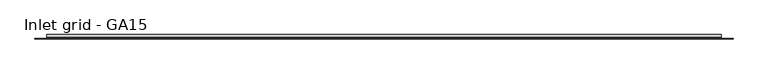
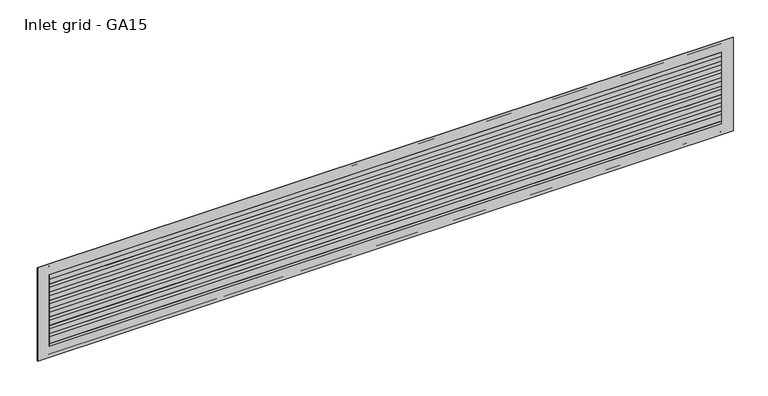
"""IFC4 building model written with IfcOpenShell, lengths in millimetres: proxy geometry, HVAC_Accessories_Emmeti_Grid-GA : Inlet grid - GA15."""

import ifcopenshell
import ifcopenshell.guid

model = None  # the IFC model being written
_history = None  # IfcOwnerHistory: only IFC2X3 demands one
_inside = {}  # id of a spatial element -> (the spatial element, [elements in it])
_under = {}  # id of a project, library or spatial element -> (it, [spatial elements below it])
_declared = {}  # id of a project -> (the project, [libraries it declares])
_typed = {}  # id of a type object -> (the type object, [elements of that type])
_made_of = {}  # id of a material, layer set ... -> (it, [elements and type objects made of it])


def new_model(schema):
    """Start an empty IFC model of exactly this schema.

    Asked for "IFC4X3", IfcOpenShell would pick the latest addendum, in which some entities
    have other attributes; the version numbers below select the first issue.
    IFC2X3 requires an IfcOwnerHistory on every rooted entity: one is made here for all.
    """
    global model, _history
    if schema == "IFC4X3":
        model = ifcopenshell.file(schema_version=(4, 3, 0, 0))
    else:
        model = ifcopenshell.file(schema=schema)
    _inside.clear()
    _under.clear()
    _declared.clear()
    _typed.clear()
    _made_of.clear()
    _history = None
    if model.schema == "IFC2X3":
        org = make("IfcOrganization", Name="unknown")
        user = make(
            "IfcPersonAndOrganization",
            ThePerson=make("IfcPerson", FamilyName="unknown"),
            TheOrganization=org,
        )
        app = make(
            "IfcApplication",
            ApplicationDeveloper=org,
            Version="unknown",
            ApplicationFullName="unknown",
            ApplicationIdentifier="unknown",
        )
        _history = make(
            "IfcOwnerHistory",
            OwningUser=user,
            OwningApplication=app,
            ChangeAction="ADDED",
            CreationDate=0,
        )
    return model


def make(cls, **values):
    """One entity of the class cls with the attributes given. An attribute that is None is left unset."""
    return model.create_entity(
        cls, **{name: value for name, value in values.items() if value is not None}
    )


def rooted(cls, **values):
    """An entity with a GlobalId (a new one), such as an element, a storey or a relation."""
    return make(cls, GlobalId=ifcopenshell.guid.new(), OwnerHistory=_history, **values)


def si_unit(unit_type, name, prefix=None):
    """IfcSIUnit, for example si_unit("LENGTHUNIT", "METRE", prefix="MILLI")."""
    return make("IfcSIUnit", UnitType=unit_type, Prefix=prefix, Name=name)


def assignment(units):
    """IfcUnitAssignment: the units of a project."""
    return None if units is None else make("IfcUnitAssignment", Units=units)


def point(xyz):
    """IfcCartesianPoint."""
    return None if xyz is None else make("IfcCartesianPoint", Coordinates=xyz)


def direction(xyz):
    """IfcDirection."""
    return None if xyz is None else make("IfcDirection", DirectionRatios=xyz)


def frame(location, z_axis=None, x_axis=None):
    """IfcAxis2Placement3D, a coordinate frame: its origin and axes. An axis left out is left unset."""
    return make(
        "IfcAxis2Placement3D",
        Location=point(location),
        Axis=direction(z_axis),
        RefDirection=direction(x_axis),
    )


def frame_2d(location, x_axis=None):
    """IfcAxis2Placement2D, a coordinate frame in the plane: its origin and x axis."""
    return make(
        "IfcAxis2Placement2D", Location=point(location), RefDirection=direction(x_axis)
    )


def origin():
    """The frame at (0, 0, 0) with its axes left unset."""
    return frame((0.0, 0.0, 0.0))


def place(relative_to, where):
    """IfcLocalPlacement: puts the frame where relative to a parent placement (None: the world)."""
    return make(
        "IfcLocalPlacement", PlacementRelTo=relative_to, RelativePlacement=where
    )


def context(
    kind, dimensions, precision=None, world=None, true_north=None, identifier=None
):
    """IfcGeometricRepresentationContext, for example the 3D "Model" context."""
    return make(
        "IfcGeometricRepresentationContext",
        ContextIdentifier=identifier,
        ContextType=kind,
        CoordinateSpaceDimension=dimensions,
        Precision=precision,
        WorldCoordinateSystem=world,
        TrueNorth=true_north,
    )


def project(units=None, contexts=None):
    """IfcProject with its units and contexts."""
    return rooted(
        "IfcProject",
        Name="project",
        RepresentationContexts=contexts,
        UnitsInContext=assignment(units),
    )


def spatial(cls, under=None, at=None, **own):
    """A site, building, storey or space (cls), placed at a placement, below another one or the project."""
    s = rooted(cls, ObjectPlacement=at, **own)
    if under is not None:
        _under.setdefault(under.id(), (under, []))[1].append(s)
    return s


def polyline(points):
    """IfcPolyline through the points."""
    return make("IfcPolyline", Points=[point(p) for p in points])


def circle_curve(where, radius):
    """IfcCircle in the frame where."""
    return make("IfcCircle", Position=where, Radius=radius)


def trimmed(basis, trim1, trim2, sense, master):
    """IfcTrimmedCurve: the piece of a basis curve between two trims."""
    return make(
        "IfcTrimmedCurve",
        BasisCurve=basis,
        Trim1=trim1,
        Trim2=trim2,
        SenseAgreement=sense,
        MasterRepresentation=master,
    )


def segment(curve, same_sense, transition):
    """IfcCompositeCurveSegment."""
    return make(
        "IfcCompositeCurveSegment",
        Transition=transition,
        SameSense=same_sense,
        ParentCurve=curve,
    )


def composite_curve(segments, self_intersect=None):
    """IfcCompositeCurve: segments joined end to end."""
    return make("IfcCompositeCurve", Segments=segments, SelfIntersect=self_intersect)


def outline(outer, holes=None, kind="AREA"):
    """IfcArbitraryClosedProfileDef: a profile drawn as a closed curve; with holes, ...WithVoids."""
    if holes is None:
        return make("IfcArbitraryClosedProfileDef", ProfileType=kind, OuterCurve=outer)
    return make(
        "IfcArbitraryProfileDefWithVoids",
        ProfileType=kind,
        OuterCurve=outer,
        InnerCurves=holes,
    )


def extrude(swept, where, along, depth):
    """IfcExtrudedAreaSolid: the profile swept, set in the frame where, extruded along a direction by depth."""
    return make(
        "IfcExtrudedAreaSolid",
        SweptArea=swept,
        Position=where,
        ExtrudedDirection=direction(along),
        Depth=depth,
    )


def shape(context_of_items, identifier, shape_type, items):
    """IfcShapeRepresentation: the items that make up one representation, for example the "Body"."""
    return make(
        "IfcShapeRepresentation",
        ContextOfItems=context_of_items,
        RepresentationIdentifier=identifier,
        RepresentationType=shape_type,
        Items=items,
    )


def source(mapping_origin, context_of_items, identifier, shape_type, items):
    """IfcRepresentationMap: a shape defined once, which mapped items show again and again."""
    return make(
        "IfcRepresentationMap",
        MappingOrigin=mapping_origin,
        MappedRepresentation=shape(context_of_items, identifier, shape_type, items),
    )


def transform(
    local_origin,
    x_axis=None,
    y_axis=None,
    z_axis=None,
    scale=None,
    scale2=None,
    scale3=None,
    uniform=True,
):
    """IfcCartesianTransformationOperator3D, or its non-uniform kind. x_axis, y_axis, z_axis: its Axis1, 2, 3."""
    if uniform:
        return make(
            "IfcCartesianTransformationOperator3D",
            Axis1=direction(x_axis),
            Axis2=direction(y_axis),
            LocalOrigin=point(local_origin),
            Scale=scale,
            Axis3=direction(z_axis),
        )
    return make(
        "IfcCartesianTransformationOperator3DnonUniform",
        Axis1=direction(x_axis),
        Axis2=direction(y_axis),
        LocalOrigin=point(local_origin),
        Scale=scale,
        Axis3=direction(z_axis),
        Scale2=scale2,
        Scale3=scale3,
    )


def mapped(mapping_source, mapping_target):
    """IfcMappedItem: shows the shape of a source again, moved by a transform."""
    return make(
        "IfcMappedItem", MappingSource=mapping_source, MappingTarget=mapping_target
    )


def made_of(thing, what):
    """Note that an element or type object is made of a material, layer set ...; save() writes the relation."""
    if what is not None:
        _made_of.setdefault(what.id(), (what, []))[1].append(thing)
    return thing


def element(
    cls,
    number,
    at=None,
    inside=None,
    cuts=None,
    type_object=None,
    material=None,
    context=None,
    identifier="Body",
    shape_type=None,
    held_by="IfcProductDefinitionShape",
    body=None,
    shapes=None,
    **own,
):
    """One element of the class cls, such as IfcWall. Its Tag is "e" and its number.

    at: its placement. inside: the storey or other place that contains it. cuts: it is an
    opening in that element (IfcRelVoidsElement). A single representation is given by context,
    identifier, shape_type and body (its items); several are given by shapes. held_by: the class
    of the entity that holds the representations. save() writes the other relations.
    """
    e = rooted(cls, Tag="e%d" % number, ObjectPlacement=at, **own)
    if body is not None:
        shapes = [shape(context, identifier, shape_type, body)]
    if shapes is not None:
        e.Representation = make(held_by, Representations=shapes)
    if inside is not None:
        _inside.setdefault(inside.id(), (inside, []))[1].append(e)
    if cuts is not None:
        rooted(
            "IfcRelVoidsElement", RelatingBuildingElement=cuts, RelatedOpeningElement=e
        )
    if type_object is not None:
        _typed.setdefault(type_object.id(), (type_object, []))[1].append(e)
    return made_of(e, material)


def aggregate(whole, parts):
    """IfcRelAggregates: a whole, such as a stair, and the parts it consists of."""
    return rooted("IfcRelAggregates", RelatingObject=whole, RelatedObjects=parts)


def save(model, path):
    """Write the relations noted so far, then the file.

    IfcRelAggregates (storeys below a building ...), IfcRelContainedInSpatialStructure (elements
    in a storey), IfcRelDefinesByType, IfcRelAssociatesMaterial and IfcRelDeclares: one each for
    every whole, place, type object, material and project.
    """
    for whole, parts in _under.values():
        aggregate(whole, parts)
    for where, things in _inside.values():
        rooted(
            "IfcRelContainedInSpatialStructure",
            RelatedElements=things,
            RelatingStructure=where,
        )
    for kind, things in _typed.values():
        rooted("IfcRelDefinesByType", RelatedObjects=things, RelatingType=kind)
    for what, things in _made_of.values():
        rooted("IfcRelAssociatesMaterial", RelatedObjects=things, RelatingMaterial=what)
    for by, libraries in _declared.values():
        rooted("IfcRelDeclares", RelatingContext=by, RelatedDefinitions=libraries)
    model.write(path)


def inlet_grid_ga15_04165da6(model_context):
    return source(origin(), model_context, "Body", "SweptSolid", [
        extrude(outline(composite_curve([segment(polyline([(4.732363, 150.0), (1.0, 163.9963613)]), True, "CONTINUOUS"), segment(trimmed(circle_curve(frame_2d((1.9313102, 163.1688853)), 1.245815), [point((1.0, 163.9963613))], [point((3.1350602, 163.4898854))], False, "CARTESIAN"), True, "CONTINUOUS"), segment(polyline([(3.1350602, 163.4898854), (7.772988, 146.0976564)]), True, "CONTINUOUS"), segment(trimmed(circle_curve(frame_2d((4.272988, 146.0976564)), 3.5), [point((7.772988, 146.0976564))], [point((4.272988, 142.5976564))], False, "CARTESIAN"), True, "CONTINUOUS"), segment(polyline([(4.272988, 142.5976564), (0.0, 142.5976564), (0.0, 150.0), (4.732363, 150.0)]), True, "CONTINUOUS")], self_intersect=False)), frame((-880.0, 0.0, 0.0), z_axis=(1.0, 0.0, 0.0), x_axis=(0.0, 1.0, 0.0)), (0.0, 0.0, 1.0), 1160.0),
        extrude(outline(composite_curve([segment(polyline([(0.0, 127.5116343), (0.0, 133.2976564), (1.0, 133.2976564)]), True, "CONTINUOUS"), segment(trimmed(circle_curve(frame_2d((-9.0945217, 118.5661561)), 17.8582326), [point((1.0, 133.2976564))], [point((5.6369786, 128.6606778))], False, "CARTESIAN"), True, "CONTINUOUS"), segment(trimmed(circle_curve(frame_2d((4.0, 127.5116343)), 2.0), [point((5.6369786, 128.6606778))], [point((6.0, 127.5116343))], False, "CARTESIAN"), True, "CONTINUOUS"), segment(polyline([(6.0, 127.5116343), (0.0, 127.5116343)]), True, "CONTINUOUS")], self_intersect=False)), frame((-880.0, 0.0, 0.0), z_axis=(1.0, 0.0, 0.0), x_axis=(0.0, 1.0, 0.0)), (0.0, 0.0, 1.0), 1160.0),
        extrude(outline(composite_curve([segment(polyline([(0.0, 112.4256122), (0.0, 118.2116343), (1.0, 118.2116343)]), True, "CONTINUOUS"), segment(trimmed(circle_curve(frame_2d((-9.0945217, 103.480134)), 17.8582326), [point((1.0, 118.2116343))], [point((5.6369786, 113.5746557))], False, "CARTESIAN"), True, "CONTINUOUS"), segment(trimmed(circle_curve(frame_2d((4.0, 112.4256122)), 2.0), [point((5.6369786, 113.5746557))], [point((6.0, 112.4256122))], False, "CARTESIAN"), True, "CONTINUOUS"), segment(polyline([(6.0, 112.4256122), (0.0, 112.4256122)]), True, "CONTINUOUS")], self_intersect=False)), frame((-880.0, 0.0, 0.0), z_axis=(1.0, 0.0, 0.0), x_axis=(0.0, 1.0, 0.0)), (0.0, 0.0, 1.0), 1160.0),
        extrude(outline(composite_curve([segment(polyline([(0.0, 97.3395901), (0.0, 103.1256122), (1.0, 103.1256122)]), True, "CONTINUOUS"), segment(trimmed(circle_curve(frame_2d((-9.0945217, 88.3941118)), 17.8582326), [point((1.0, 103.1256122))], [point((5.6369786, 98.4886335))], False, "CARTESIAN"), True, "CONTINUOUS"), segment(trimmed(circle_curve(frame_2d((4.0, 97.3395901)), 2.0), [point((5.6369786, 98.4886335))], [point((6.0, 97.3395901))], False, "CARTESIAN"), True, "CONTINUOUS"), segment(polyline([(6.0, 97.3395901), (0.0, 97.3395901)]), True, "CONTINUOUS")], self_intersect=False)), frame((-880.0, 0.0, 0.0), z_axis=(1.0, 0.0, 0.0), x_axis=(0.0, 1.0, 0.0)), (0.0, 0.0, 1.0), 1160.0),
        extrude(outline(composite_curve([segment(polyline([(0.0, 82.187813), (0.0, 87.9738351), (1.0, 87.9738351)]), True, "CONTINUOUS"), segment(trimmed(circle_curve(frame_2d((-9.0945217, 73.2423348)), 17.8582326), [point((1.0, 87.9738351))], [point((5.6369786, 83.3368565))], False, "CARTESIAN"), True, "CONTINUOUS"), segment(trimmed(circle_curve(frame_2d((4.0, 82.187813)), 2.0), [point((5.6369786, 83.3368565))], [point((6.0, 82.187813))], False, "CARTESIAN"), True, "CONTINUOUS"), segment(polyline([(6.0, 82.187813), (0.0, 82.187813)]), True, "CONTINUOUS")], self_intersect=False)), frame((-880.0, 0.0, 0.0), z_axis=(1.0, 0.0, 0.0), x_axis=(0.0, 1.0, 0.0)), (0.0, 0.0, 1.0), 1160.0),
        extrude(outline(composite_curve([segment(polyline([(0.0, 67.1017909), (0.0, 72.887813), (1.0, 72.887813)]), True, "CONTINUOUS"), segment(trimmed(circle_curve(frame_2d((-9.0945217, 58.1563127)), 17.8582326), [point((1.0, 72.887813))], [point((5.6369786, 68.2508344))], False, "CARTESIAN"), True, "CONTINUOUS"), segment(trimmed(circle_curve(frame_2d((4.0, 67.1017909)), 2.0), [point((5.6369786, 68.2508344))], [point((6.0, 67.1017909))], False, "CARTESIAN"), True, "CONTINUOUS"), segment(polyline([(6.0, 67.1017909), (0.0, 67.1017909)]), True, "CONTINUOUS")], self_intersect=False)), frame((-880.0, 0.0, 0.0), z_axis=(1.0, 0.0, 0.0), x_axis=(0.0, 1.0, 0.0)), (0.0, 0.0, 1.0), 1160.0),
        extrude(outline(composite_curve([segment(polyline([(0.0, 52.0157688), (0.0, 57.8017909), (1.0, 57.8017909)]), True, "CONTINUOUS"), segment(trimmed(circle_curve(frame_2d((-9.0945217, 43.0702905)), 17.8582326), [point((1.0, 57.8017909))], [point((5.6369786, 53.1648122))], False, "CARTESIAN"), True, "CONTINUOUS"), segment(trimmed(circle_curve(frame_2d((4.0, 52.0157688)), 2.0), [point((5.6369786, 53.1648122))], [point((6.0, 52.0157688))], False, "CARTESIAN"), True, "CONTINUOUS"), segment(polyline([(6.0, 52.0157688), (0.0, 52.0157688)]), True, "CONTINUOUS")], self_intersect=False)), frame((-880.0, 0.0, 0.0), z_axis=(1.0, 0.0, 0.0), x_axis=(0.0, 1.0, 0.0)), (0.0, 0.0, 1.0), 1160.0),
        extrude(outline(composite_curve([segment(polyline([(0.0, 36.8639917), (0.0, 42.6500138), (1.0, 42.6500138)]), True, "CONTINUOUS"), segment(trimmed(circle_curve(frame_2d((-9.0945217, 27.9185135)), 17.8582326), [point((1.0, 42.6500138))], [point((5.6369786, 38.0130352))], False, "CARTESIAN"), True, "CONTINUOUS"), segment(trimmed(circle_curve(frame_2d((4.0, 36.8639917)), 2.0), [point((5.6369786, 38.0130352))], [point((6.0, 36.8639917))], False, "CARTESIAN"), True, "CONTINUOUS"), segment(polyline([(6.0, 36.8639917), (0.0, 36.8639917)]), True, "CONTINUOUS")], self_intersect=False)), frame((-880.0, 0.0, 0.0), z_axis=(1.0, 0.0, 0.0), x_axis=(0.0, 1.0, 0.0)), (0.0, 0.0, 1.0), 1160.0),
        extrude(outline(composite_curve([segment(polyline([(0.0, 20.0), (0.0, 24.4023436), (5.772988, 24.4023436)]), True, "CONTINUOUS"), segment(trimmed(circle_curve(frame_2d((5.772988, 22.4023436)), 2.0), [point((5.772988, 24.4023436))], [point((7.772988, 22.4023436))], False, "CARTESIAN"), True, "CONTINUOUS"), segment(polyline([(7.772988, 22.4023436), (3.1350602, 5.0101146)]), True, "CONTINUOUS"), segment(trimmed(circle_curve(frame_2d((1.9313102, 5.3311147)), 1.245815), [point((3.1350602, 5.0101146))], [point((1.0, 4.5036387))], False, "CARTESIAN"), True, "CONTINUOUS"), segment(polyline([(1.0, 4.5036387), (5.132363, 20.0), (0.0, 20.0)]), True, "CONTINUOUS")], self_intersect=False)), frame((-880.0, 0.0, 0.0), z_axis=(1.0, 0.0, 0.0), x_axis=(0.0, 1.0, 0.0)), (0.0, 0.0, 1.0), 1160.0),
        extrude(outline(polyline([(170.0, 300.0), (170.0, -900.0), (0.0, -900.0), (0.0, 300.0), (170.0, 300.0)]), holes=[polyline([(150.0, 280.0), (20.0, 280.0), (20.0, -880.0), (150.0, -880.0), (150.0, 280.0)])]), frame((0.0, 0.0, 0.0), z_axis=(0.0, 1.0, 0.0), x_axis=(0.0, 0.0, 1.0)), (0.0, 0.0, 1.0), 1.0),
        extrude(outline(polyline([(280.0, 0.0), (-880.0, 0.0), (-880.0, 1.0), (280.0, 1.0), (280.0, 0.0)])), frame((0.0, 0.0, 24.4023436), z_axis=(0.0, 0.0, 1.0), x_axis=(1.0, 0.0, 0.0)), (0.0, 0.0, 1.0), 125.5976564),
    ])


if __name__ == "__main__":
    model = new_model("IFC4")
    model_context = context("Model", 3, world=origin())
    ifc_project = project(units=[si_unit("LENGTHUNIT", "METRE", prefix="MILLI")], contexts=[model_context])
    site = spatial("IfcSite", under=ifc_project)
    building = spatial("IfcBuilding", under=site)
    placement = place(None, origin())
    inlet_grid_ga15_shape = inlet_grid_ga15_04165da6(model_context)
    element("IfcBuildingElementProxy", 1, Name="HVAC_Accessories_Emmeti_Grid-GA : Inlet grid - GA15", ObjectType="HVAC_Accessories_Emmeti_Grid-GA : Inlet grid - GA15", at=placement, inside=building, context=model_context, shape_type="MappedRepresentation", body=[
        mapped(inlet_grid_ga15_shape, transform((0.0, 0.0, 0.0), x_axis=(1.0, 0.0, 0.0), y_axis=(0.0, 1.0, 0.0), z_axis=(0.0, 0.0, 1.0))),
    ])
    save(model, "model.ifc")
